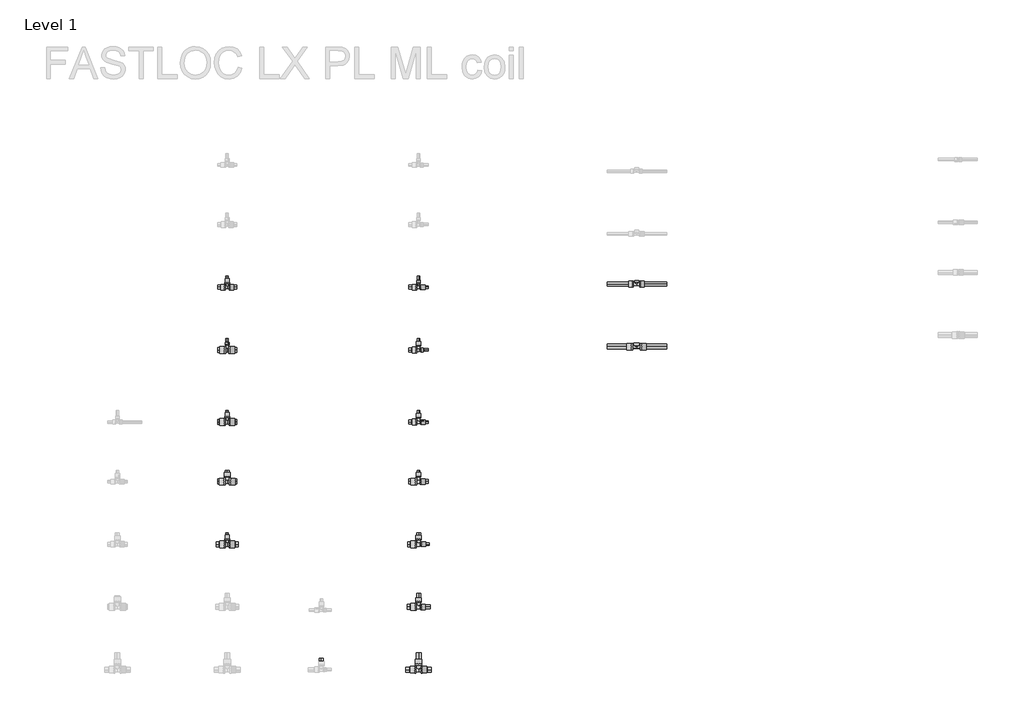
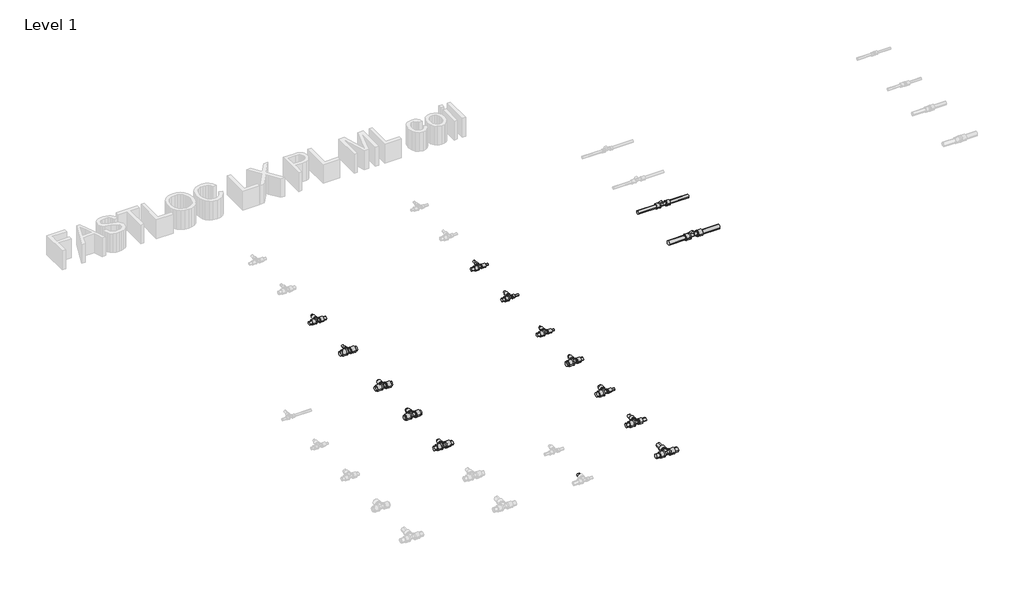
# One storey, part 7 of 78: 41 pipe segments, 14 pipe fittings.
"""IFC4 building model written with IfcOpenShell, lengths in millimetres."""

from ifc_helpers import new_model, si_unit, point, frame, frame_2d, origin, place, context, project, spatial, circle_curve, trimmed, segment, composite_curve, outline, extrude, transform, mapped, element, save
from components import pipe_fitting_91740978, pipe_fitting_29102c59, pipe_fitting_7435f538, pipe_fitting_b40a3e3c, pipe_fitting_d9a56b63, pipe_fitting_a094db19, pipe_fitting_5d5decb5, pipe_fitting_f2600fd0, pipe_fitting_8d489ee2, pipe_fitting_c4e8b4db, pipe_fitting_3bea6388, pipe_fitting_e638986c, pipe_fitting_29c4d4eb

model = new_model("IFC4")

# Units and contexts
model_context = context("Model", 3, world=origin())
ifc_project = project(units=[si_unit("LENGTHUNIT", "METRE", prefix="MILLI")], contexts=[model_context])

# Site, building, storey
site = spatial("IfcSite", under=ifc_project)
building = spatial("IfcBuilding", under=site)
storey = spatial("IfcBuildingStorey", under=building, Name="Level 1", Elevation=0.0)

# Pipe fittings
placement = place(None, origin())
pipe_fitting_shape = pipe_fitting_91740978(model_context)
element("IfcPipeFitting", 1, ObjectType="FASTLOC_T-piece internal thread LX : FSL T thread LX PL", at=placement, inside=storey, context=model_context, shape_type="MappedRepresentation", body=[
    mapped(pipe_fitting_shape, transform((59036.609585, -36699.8272875, 0.0), x_axis=(1.0, 0.0, 0.0), y_axis=(0.0, 1.0, 0.0), z_axis=(0.0, 0.0, 1.0))),
])
pipe_fitting_2_shape = pipe_fitting_29102c59(model_context)
element("IfcPipeFitting", 2, ObjectType="FASTLOC_T-piece_LX : FSL T-Piece LX PL", at=placement, inside=storey, context=model_context, shape_type="MappedRepresentation", body=[
    mapped(pipe_fitting_2_shape, transform((57646.7498072, -38760.2405791, 0.0), x_axis=(1.0, 0.0, 0.0), y_axis=(0.0, 1.0, 0.0), z_axis=(0.0, 0.0, 1.0))),
])
pipe_fitting_3_shape = pipe_fitting_7435f538(model_context)
element("IfcPipeFitting", 3, ObjectType="FASTLOC_T-piece_LX : FSL T-Piece LX PL", at=placement, inside=storey, context=model_context, shape_type="MappedRepresentation", body=[
    mapped(pipe_fitting_3_shape, transform((56426.7498072, -37180.2405791, 0.0), x_axis=(1.0, 0.0, 0.0), y_axis=(0.0, 1.0, 0.0), z_axis=(0.0, 0.0, 1.0))),
])
element("IfcPipeFitting", 4, ObjectType="FASTLOC_T-piece_LX : FSL T-Piece LX PL", at=placement, inside=storey, context=model_context, shape_type="MappedRepresentation", body=[
    mapped(pipe_fitting_3_shape, transform((56426.7498072, -37960.2405791, 0.0), x_axis=(1.0, 0.0, 0.0), y_axis=(0.0, 1.0, 0.0), z_axis=(0.0, 0.0, 1.0))),
])
pipe_fitting_4_shape = pipe_fitting_b40a3e3c(model_context)
element("IfcPipeFitting", 5, ObjectType="FASTLOC_T-piece_LX : FSL T-Piece LX PL", at=placement, inside=storey, context=model_context, shape_type="MappedRepresentation", body=[
    mapped(pipe_fitting_4_shape, transform((56426.7498072, -37560.2405791, 0.0), x_axis=(1.0, 0.0, 0.0), y_axis=(0.0, 1.0, 0.0), z_axis=(0.0, 0.0, 1.0))),
])
pipe_fitting_5_shape = pipe_fitting_d9a56b63(model_context)
element("IfcPipeFitting", 6, ObjectType="FASTLOC_T-piece_LX : FSL T-Piece LX PL", at=placement, inside=storey, context=model_context, shape_type="MappedRepresentation", body=[
    mapped(pipe_fitting_5_shape, transform((56426.7498072, -36320.2405791, 0.0), x_axis=(1.0, 0.0, 0.0), y_axis=(0.0, 1.0, 0.0), z_axis=(0.0, 0.0, 1.0))),
])
pipe_fitting_6_shape = pipe_fitting_a094db19(model_context)
element("IfcPipeFitting", 7, ObjectType="FASTLOC_T-piece_LX : FSL T-Piece LX PL", at=placement, inside=storey, context=model_context, shape_type="MappedRepresentation", body=[
    mapped(pipe_fitting_6_shape, transform((56426.7498072, -36720.2405791, 0.0), x_axis=(1.0, 0.0, 0.0), y_axis=(0.0, 1.0, 0.0), z_axis=(0.0, 0.0, 1.0))),
])
pipe_fitting_7_shape = pipe_fitting_5d5decb5(model_context)
element("IfcPipeFitting", 8, ObjectType="FASTLOC_T-piece_LX : FSL T-Piece LX PL", at=placement, inside=storey, context=model_context, shape_type="MappedRepresentation", body=[
    mapped(pipe_fitting_7_shape, transform((57646.7498072, -37180.2405791, 0.0), x_axis=(1.0, 0.0, 0.0), y_axis=(0.0, 1.0, 0.0), z_axis=(0.0, 0.0, 1.0))),
])
pipe_fitting_8_shape = pipe_fitting_f2600fd0(model_context)
element("IfcPipeFitting", 9, ObjectType="FASTLOC_T-piece_LX : FSL T-Piece LX PL", at=placement, inside=storey, context=model_context, shape_type="MappedRepresentation", body=[
    mapped(pipe_fitting_8_shape, transform((57646.7498072, -37560.2405791, 0.0), x_axis=(1.0, 0.0, 0.0), y_axis=(0.0, 1.0, 0.0), z_axis=(0.0, 0.0, 1.0))),
])
pipe_fitting_9_shape = pipe_fitting_8d489ee2(model_context)
element("IfcPipeFitting", 10, ObjectType="FASTLOC_T-piece_LX : FSL T-Piece LX PL", at=placement, inside=storey, context=model_context, shape_type="MappedRepresentation", body=[
    mapped(pipe_fitting_9_shape, transform((57646.7498072, -37960.2405791, 0.0), x_axis=(1.0, 0.0, 0.0), y_axis=(0.0, 1.0, 0.0), z_axis=(0.0, 0.0, 1.0))),
])
pipe_fitting_10_shape = pipe_fitting_c4e8b4db(model_context)
element("IfcPipeFitting", 11, ObjectType="FASTLOC_T-piece_LX : FSL T-Piece LX PL", at=placement, inside=storey, context=model_context, shape_type="MappedRepresentation", body=[
    mapped(pipe_fitting_10_shape, transform((57646.7498072, -38360.2405791, 0.0), x_axis=(1.0, 0.0, 0.0), y_axis=(0.0, 1.0, 0.0), z_axis=(0.0, 0.0, 1.0))),
])
pipe_fitting_11_shape = pipe_fitting_3bea6388(model_context)
element("IfcPipeFitting", 12, ObjectType="FASTLOC_T-piece_LX : FSL T-Piece LX PL", at=placement, inside=storey, context=model_context, shape_type="MappedRepresentation", body=[
    mapped(pipe_fitting_11_shape, transform((57646.7498072, -36320.2405791, 0.0), x_axis=(1.0, 0.0, 0.0), y_axis=(0.0, 1.0, 0.0), z_axis=(0.0, 0.0, 1.0))),
])
pipe_fitting_12_shape = pipe_fitting_e638986c(model_context)
element("IfcPipeFitting", 13, ObjectType="FASTLOC_T-piece_LX : FSL T-Piece LX PL", at=placement, inside=storey, context=model_context, shape_type="MappedRepresentation", body=[
    mapped(pipe_fitting_12_shape, transform((57646.7498072, -36720.2405791, 0.0), x_axis=(1.0, 0.0, 0.0), y_axis=(0.0, 1.0, 0.0), z_axis=(0.0, 0.0, 1.0))),
])
pipe_fitting_13_shape = pipe_fitting_29c4d4eb(model_context)
element("IfcPipeFitting", 14, ObjectType="FASTLOC_T-piece internal thread LX : FSL T thread LX PL", at=placement, inside=storey, context=model_context, shape_type="MappedRepresentation", body=[
    mapped(pipe_fitting_13_shape, transform((59036.609585, -36299.8272875, 0.0), x_axis=(1.0, 0.0, 0.0), y_axis=(0.0, 1.0, 0.0), z_axis=(0.0, 0.0, 1.0))),
])

# Pipe segments
element("IfcPipeSegment", 15, ObjectType="FASTLOC LX ML PL coil", at=placement, inside=storey, context=model_context, shape_type="SweptSolid", body=[
    extrude(outline(composite_curve([segment(trimmed(circle_curve(frame_2d((-37180.2405791, 0.0)), 16.0), [point((-37196.2405791, 0.0))], [point((-37180.2405791, 16.0))], False, "CARTESIAN"), True, "CONTINUOUS"), segment(trimmed(circle_curve(frame_2d((-37180.2405791, 0.0)), 16.0), [point((-37180.2405791, 16.0))], [point((-37164.2405791, 0.0))], False, "CARTESIAN"), True, "CONTINUOUS"), segment(trimmed(circle_curve(frame_2d((-37180.2405791, 0.0)), 16.0), [point((-37164.2405791, 0.0))], [point((-37180.2405791, -16.0))], False, "CARTESIAN"), True, "CONTINUOUS"), segment(trimmed(circle_curve(frame_2d((-37180.2405791, 0.0)), 16.0), [point((-37180.2405791, -16.0))], [point((-37196.2405791, 0.0))], False, "CARTESIAN"), True, "CONTINUOUS")], self_intersect=False)), frame((56446.9498072, 0.0, 0.0), z_axis=(1.0, 0.0, 0.0), x_axis=(0.0, 1.0, 0.0)), (0.0, 0.0, 1.0), 41.8),
])
element("IfcPipeSegment", 16, ObjectType="FASTLOC LX ML PL coil", at=placement, inside=storey, context=model_context, shape_type="SweptSolid", body=[
    extrude(outline(composite_curve([segment(trimmed(circle_curve(frame_2d((-37180.2405791, 0.0)), 16.0), [point((-37164.2405791, 0.0))], [point((-37180.2405791, -16.0))], False, "CARTESIAN"), True, "CONTINUOUS"), segment(trimmed(circle_curve(frame_2d((-37180.2405791, 0.0)), 16.0), [point((-37180.2405791, -16.0))], [point((-37196.2405791, 0.0))], False, "CARTESIAN"), True, "CONTINUOUS"), segment(trimmed(circle_curve(frame_2d((-37180.2405791, 0.0)), 16.0), [point((-37196.2405791, 0.0))], [point((-37180.2405791, 16.0))], False, "CARTESIAN"), True, "CONTINUOUS"), segment(trimmed(circle_curve(frame_2d((-37180.2405791, 0.0)), 16.0), [point((-37180.2405791, 16.0))], [point((-37164.2405791, 0.0))], False, "CARTESIAN"), True, "CONTINUOUS")], self_intersect=False)), frame((56364.7498072, 0.0, 0.0), z_axis=(1.0, 0.0, 0.0), x_axis=(0.0, 1.0, 0.0)), (0.0, 0.0, 1.0), 41.8),
])
element("IfcPipeSegment", 17, ObjectType="FASTLOC LX ML PL coil", at=placement, inside=storey, context=model_context, shape_type="SweptSolid", body=[
    extrude(outline(composite_curve([segment(trimmed(circle_curve(frame_2d((0.0, 56426.7498072)), 8.0), [point((0.0, 56434.7498072))], [point((8.0, 56426.7498072))], False, "CARTESIAN"), True, "CONTINUOUS"), segment(trimmed(circle_curve(frame_2d((0.0, 56426.7498072)), 8.0), [point((8.0, 56426.7498072))], [point((0.0, 56418.7498072))], False, "CARTESIAN"), True, "CONTINUOUS"), segment(trimmed(circle_curve(frame_2d((0.0, 56426.7498072)), 8.0), [point((0.0, 56418.7498072))], [point((-8.0, 56426.7498072))], False, "CARTESIAN"), True, "CONTINUOUS"), segment(trimmed(circle_curve(frame_2d((0.0, 56426.7498072)), 8.0), [point((-8.0, 56426.7498072))], [point((0.0, 56434.7498072))], False, "CARTESIAN"), True, "CONTINUOUS")], self_intersect=False)), frame((0.0, -37146.2405791, 0.0), z_axis=(0.0, 1.0, 0.0), x_axis=(0.0, 0.0, 1.0)), (0.0, 0.0, 1.0), 38.3),
])
element("IfcPipeSegment", 18, ObjectType="FASTLOC LX ML PL coil", at=placement, inside=storey, context=model_context, shape_type="SweptSolid", body=[
    extrude(outline(composite_curve([segment(trimmed(circle_curve(frame_2d((-37560.2405791, 0.0)), 16.0), [point((-37576.2405791, 0.0))], [point((-37560.2405791, 16.0))], False, "CARTESIAN"), True, "CONTINUOUS"), segment(trimmed(circle_curve(frame_2d((-37560.2405791, 0.0)), 16.0), [point((-37560.2405791, 16.0))], [point((-37544.2405791, 0.0))], False, "CARTESIAN"), True, "CONTINUOUS"), segment(trimmed(circle_curve(frame_2d((-37560.2405791, 0.0)), 16.0), [point((-37544.2405791, 0.0))], [point((-37560.2405791, -16.0))], False, "CARTESIAN"), True, "CONTINUOUS"), segment(trimmed(circle_curve(frame_2d((-37560.2405791, 0.0)), 16.0), [point((-37560.2405791, -16.0))], [point((-37576.2405791, 0.0))], False, "CARTESIAN"), True, "CONTINUOUS")], self_intersect=False)), frame((56448.7498072, 0.0, 0.0), z_axis=(1.0, 0.0, 0.0), x_axis=(0.0, 1.0, 0.0)), (0.0, 0.0, 1.0), 40.0),
])
element("IfcPipeSegment", 19, ObjectType="FASTLOC LX ML PL coil", at=placement, inside=storey, context=model_context, shape_type="SweptSolid", body=[
    extrude(outline(composite_curve([segment(trimmed(circle_curve(frame_2d((-37560.2405791, 0.0)), 16.0), [point((-37544.2405791, 0.0))], [point((-37560.2405791, -16.0))], False, "CARTESIAN"), True, "CONTINUOUS"), segment(trimmed(circle_curve(frame_2d((-37560.2405791, 0.0)), 16.0), [point((-37560.2405791, -16.0))], [point((-37576.2405791, 0.0))], False, "CARTESIAN"), True, "CONTINUOUS"), segment(trimmed(circle_curve(frame_2d((-37560.2405791, 0.0)), 16.0), [point((-37576.2405791, 0.0))], [point((-37560.2405791, 16.0))], False, "CARTESIAN"), True, "CONTINUOUS"), segment(trimmed(circle_curve(frame_2d((-37560.2405791, 0.0)), 16.0), [point((-37560.2405791, 16.0))], [point((-37544.2405791, 0.0))], False, "CARTESIAN"), True, "CONTINUOUS")], self_intersect=False)), frame((56364.7498072, 0.0, 0.0), z_axis=(1.0, 0.0, 0.0), x_axis=(0.0, 1.0, 0.0)), (0.0, 0.0, 1.0), 40.0),
])
element("IfcPipeSegment", 20, ObjectType="FASTLOC LX ML PL coil", at=placement, inside=storey, context=model_context, shape_type="SweptSolid", body=[
    extrude(outline(composite_curve([segment(trimmed(circle_curve(frame_2d((0.0, 56426.7498072)), 12.5), [point((0.0, 56439.2498072))], [point((12.5, 56426.7498072))], False, "CARTESIAN"), True, "CONTINUOUS"), segment(trimmed(circle_curve(frame_2d((0.0, 56426.7498072)), 12.5), [point((12.5, 56426.7498072))], [point((0.0, 56414.2498072))], False, "CARTESIAN"), True, "CONTINUOUS"), segment(trimmed(circle_curve(frame_2d((0.0, 56426.7498072)), 12.5), [point((0.0, 56414.2498072))], [point((-12.5, 56426.7498072))], False, "CARTESIAN"), True, "CONTINUOUS"), segment(trimmed(circle_curve(frame_2d((0.0, 56426.7498072)), 12.5), [point((-12.5, 56426.7498072))], [point((0.0, 56439.2498072))], False, "CARTESIAN"), True, "CONTINUOUS")], self_intersect=False)), frame((0.0, -37525.8405791, 0.0), z_axis=(0.0, 1.0, 0.0), x_axis=(0.0, 0.0, 1.0)), (0.0, 0.0, 1.0), 37.9),
])
element("IfcPipeSegment", 21, ObjectType="FASTLOC LX ML PL coil", at=placement, inside=storey, context=model_context, shape_type="SweptSolid", body=[
    extrude(outline(composite_curve([segment(trimmed(circle_curve(frame_2d((-37960.2405791, 0.0)), 16.0), [point((-37976.2405791, 0.0))], [point((-37960.2405791, 16.0))], False, "CARTESIAN"), True, "CONTINUOUS"), segment(trimmed(circle_curve(frame_2d((-37960.2405791, 0.0)), 16.0), [point((-37960.2405791, 16.0))], [point((-37944.2405791, 0.0))], False, "CARTESIAN"), True, "CONTINUOUS"), segment(trimmed(circle_curve(frame_2d((-37960.2405791, 0.0)), 16.0), [point((-37944.2405791, 0.0))], [point((-37960.2405791, -16.0))], False, "CARTESIAN"), True, "CONTINUOUS"), segment(trimmed(circle_curve(frame_2d((-37960.2405791, 0.0)), 16.0), [point((-37960.2405791, -16.0))], [point((-37976.2405791, 0.0))], False, "CARTESIAN"), True, "CONTINUOUS")], self_intersect=False)), frame((56446.9498072, 0.0, 0.0), z_axis=(1.0, 0.0, 0.0), x_axis=(0.0, 1.0, 0.0)), (0.0, 0.0, 1.0), 48.8),
])
element("IfcPipeSegment", 22, ObjectType="FASTLOC LX ML PL coil", at=placement, inside=storey, context=model_context, shape_type="SweptSolid", body=[
    extrude(outline(composite_curve([segment(trimmed(circle_curve(frame_2d((-37960.2405791, 0.0)), 16.0), [point((-37944.2405791, 0.0))], [point((-37960.2405791, -16.0))], False, "CARTESIAN"), True, "CONTINUOUS"), segment(trimmed(circle_curve(frame_2d((-37960.2405791, 0.0)), 16.0), [point((-37960.2405791, -16.0))], [point((-37976.2405791, 0.0))], False, "CARTESIAN"), True, "CONTINUOUS"), segment(trimmed(circle_curve(frame_2d((-37960.2405791, 0.0)), 16.0), [point((-37976.2405791, 0.0))], [point((-37960.2405791, 16.0))], False, "CARTESIAN"), True, "CONTINUOUS"), segment(trimmed(circle_curve(frame_2d((-37960.2405791, 0.0)), 16.0), [point((-37960.2405791, 16.0))], [point((-37944.2405791, 0.0))], False, "CARTESIAN"), True, "CONTINUOUS")], self_intersect=False)), frame((56357.7498072, 0.0, 0.0), z_axis=(1.0, 0.0, 0.0), x_axis=(0.0, 1.0, 0.0)), (0.0, 0.0, 1.0), 48.8),
])
element("IfcPipeSegment", 23, ObjectType="FASTLOC LX ML PL coil", at=placement, inside=storey, context=model_context, shape_type="SweptSolid", body=[
    extrude(outline(composite_curve([segment(trimmed(circle_curve(frame_2d((0.0, 56426.7498072)), 8.0), [point((0.0, 56434.7498072))], [point((8.0, 56426.7498072))], False, "CARTESIAN"), True, "CONTINUOUS"), segment(trimmed(circle_curve(frame_2d((0.0, 56426.7498072)), 8.0), [point((8.0, 56426.7498072))], [point((0.0, 56418.7498072))], False, "CARTESIAN"), True, "CONTINUOUS"), segment(trimmed(circle_curve(frame_2d((0.0, 56426.7498072)), 8.0), [point((0.0, 56418.7498072))], [point((-8.0, 56426.7498072))], False, "CARTESIAN"), True, "CONTINUOUS"), segment(trimmed(circle_curve(frame_2d((0.0, 56426.7498072)), 8.0), [point((-8.0, 56426.7498072))], [point((0.0, 56434.7498072))], False, "CARTESIAN"), True, "CONTINUOUS")], self_intersect=False)), frame((0.0, -37926.2405791, 0.0), z_axis=(0.0, 1.0, 0.0), x_axis=(0.0, 0.0, 1.0)), (0.0, 0.0, 1.0), 38.3),
])
element("IfcPipeSegment", 24, ObjectType="FASTLOC LX ML PL coil", at=placement, inside=storey, context=model_context, shape_type="SweptSolid", body=[
    extrude(outline(composite_curve([segment(trimmed(circle_curve(frame_2d((-36320.2405791, 0.0)), 12.5), [point((-36332.7405791, 0.0))], [point((-36320.2405791, 12.5))], False, "CARTESIAN"), True, "CONTINUOUS"), segment(trimmed(circle_curve(frame_2d((-36320.2405791, 0.0)), 12.5), [point((-36320.2405791, 12.5))], [point((-36307.7405791, 0.0))], False, "CARTESIAN"), True, "CONTINUOUS"), segment(trimmed(circle_curve(frame_2d((-36320.2405791, 0.0)), 12.5), [point((-36307.7405791, 0.0))], [point((-36320.2405791, -12.5))], False, "CARTESIAN"), True, "CONTINUOUS"), segment(trimmed(circle_curve(frame_2d((-36320.2405791, 0.0)), 12.5), [point((-36320.2405791, -12.5))], [point((-36332.7405791, 0.0))], False, "CARTESIAN"), True, "CONTINUOUS")], self_intersect=False)), frame((56444.8498072, 0.0, 0.0), z_axis=(1.0, 0.0, 0.0), x_axis=(0.0, 1.0, 0.0)), (0.0, 0.0, 1.0), 43.9),
])
element("IfcPipeSegment", 25, ObjectType="FASTLOC LX ML PL coil", at=placement, inside=storey, context=model_context, shape_type="SweptSolid", body=[
    extrude(outline(composite_curve([segment(trimmed(circle_curve(frame_2d((-36320.2405791, 0.0)), 12.5), [point((-36307.7405791, 0.0))], [point((-36320.2405791, -12.5))], False, "CARTESIAN"), True, "CONTINUOUS"), segment(trimmed(circle_curve(frame_2d((-36320.2405791, 0.0)), 12.5), [point((-36320.2405791, -12.5))], [point((-36332.7405791, 0.0))], False, "CARTESIAN"), True, "CONTINUOUS"), segment(trimmed(circle_curve(frame_2d((-36320.2405791, 0.0)), 12.5), [point((-36332.7405791, 0.0))], [point((-36320.2405791, 12.5))], False, "CARTESIAN"), True, "CONTINUOUS"), segment(trimmed(circle_curve(frame_2d((-36320.2405791, 0.0)), 12.5), [point((-36320.2405791, 12.5))], [point((-36307.7405791, 0.0))], False, "CARTESIAN"), True, "CONTINUOUS")], self_intersect=False)), frame((56364.7498072, 0.0, 0.0), z_axis=(1.0, 0.0, 0.0), x_axis=(0.0, 1.0, 0.0)), (0.0, 0.0, 1.0), 43.9),
])
element("IfcPipeSegment", 26, ObjectType="FASTLOC LX ML PL coil", at=placement, inside=storey, context=model_context, shape_type="SweptSolid", body=[
    extrude(outline(composite_curve([segment(trimmed(circle_curve(frame_2d((0.0, 56426.7498072)), 8.0), [point((0.0, 56434.7498072))], [point((8.0, 56426.7498072))], False, "CARTESIAN"), True, "CONTINUOUS"), segment(trimmed(circle_curve(frame_2d((0.0, 56426.7498072)), 8.0), [point((8.0, 56426.7498072))], [point((0.0, 56418.7498072))], False, "CARTESIAN"), True, "CONTINUOUS"), segment(trimmed(circle_curve(frame_2d((0.0, 56426.7498072)), 8.0), [point((0.0, 56418.7498072))], [point((-8.0, 56426.7498072))], False, "CARTESIAN"), True, "CONTINUOUS"), segment(trimmed(circle_curve(frame_2d((0.0, 56426.7498072)), 8.0), [point((-8.0, 56426.7498072))], [point((0.0, 56434.7498072))], False, "CARTESIAN"), True, "CONTINUOUS")], self_intersect=False)), frame((0.0, -36291.0405791, 0.0), z_axis=(0.0, 1.0, 0.0), x_axis=(0.0, 0.0, 1.0)), (0.0, 0.0, 1.0), 43.1),
])
element("IfcPipeSegment", 27, ObjectType="FASTLOC LX ML PL coil", at=placement, inside=storey, context=model_context, shape_type="SweptSolid", body=[
    extrude(outline(composite_curve([segment(trimmed(circle_curve(frame_2d((-36720.2405791, 0.0)), 16.0), [point((-36736.2405791, 0.0))], [point((-36720.2405791, 16.0))], False, "CARTESIAN"), True, "CONTINUOUS"), segment(trimmed(circle_curve(frame_2d((-36720.2405791, 0.0)), 16.0), [point((-36720.2405791, 16.0))], [point((-36704.2405791, 0.0))], False, "CARTESIAN"), True, "CONTINUOUS"), segment(trimmed(circle_curve(frame_2d((-36720.2405791, 0.0)), 16.0), [point((-36704.2405791, 0.0))], [point((-36720.2405791, -16.0))], False, "CARTESIAN"), True, "CONTINUOUS"), segment(trimmed(circle_curve(frame_2d((-36720.2405791, 0.0)), 16.0), [point((-36720.2405791, -16.0))], [point((-36736.2405791, 0.0))], False, "CARTESIAN"), True, "CONTINUOUS")], self_intersect=False)), frame((56445.0498072, 0.0, 0.0), z_axis=(1.0, 0.0, 0.0), x_axis=(0.0, 1.0, 0.0)), (0.0, 0.0, 1.0), 43.7),
])
element("IfcPipeSegment", 28, ObjectType="FASTLOC LX ML PL coil", at=placement, inside=storey, context=model_context, shape_type="SweptSolid", body=[
    extrude(outline(composite_curve([segment(trimmed(circle_curve(frame_2d((-36720.2405791, 0.0)), 16.0), [point((-36704.2405791, 0.0))], [point((-36720.2405791, -16.0))], False, "CARTESIAN"), True, "CONTINUOUS"), segment(trimmed(circle_curve(frame_2d((-36720.2405791, 0.0)), 16.0), [point((-36720.2405791, -16.0))], [point((-36736.2405791, 0.0))], False, "CARTESIAN"), True, "CONTINUOUS"), segment(trimmed(circle_curve(frame_2d((-36720.2405791, 0.0)), 16.0), [point((-36736.2405791, 0.0))], [point((-36720.2405791, 16.0))], False, "CARTESIAN"), True, "CONTINUOUS"), segment(trimmed(circle_curve(frame_2d((-36720.2405791, 0.0)), 16.0), [point((-36720.2405791, 16.0))], [point((-36704.2405791, 0.0))], False, "CARTESIAN"), True, "CONTINUOUS")], self_intersect=False)), frame((56364.7498072, 0.0, 0.0), z_axis=(1.0, 0.0, 0.0), x_axis=(0.0, 1.0, 0.0)), (0.0, 0.0, 1.0), 43.7),
])
element("IfcPipeSegment", 29, ObjectType="FASTLOC LX ML PL coil", at=placement, inside=storey, context=model_context, shape_type="SweptSolid", body=[
    extrude(outline(composite_curve([segment(trimmed(circle_curve(frame_2d((0.0, 56426.7498072)), 8.0), [point((0.0, 56434.7498072))], [point((8.0, 56426.7498072))], False, "CARTESIAN"), True, "CONTINUOUS"), segment(trimmed(circle_curve(frame_2d((0.0, 56426.7498072)), 8.0), [point((8.0, 56426.7498072))], [point((0.0, 56418.7498072))], False, "CARTESIAN"), True, "CONTINUOUS"), segment(trimmed(circle_curve(frame_2d((0.0, 56426.7498072)), 8.0), [point((0.0, 56418.7498072))], [point((-8.0, 56426.7498072))], False, "CARTESIAN"), True, "CONTINUOUS"), segment(trimmed(circle_curve(frame_2d((0.0, 56426.7498072)), 8.0), [point((-8.0, 56426.7498072))], [point((0.0, 56434.7498072))], False, "CARTESIAN"), True, "CONTINUOUS")], self_intersect=False)), frame((0.0, -36686.3405791, 0.0), z_axis=(0.0, 1.0, 0.0), x_axis=(0.0, 0.0, 1.0)), (0.0, 0.0, 1.0), 38.4),
])
element("IfcPipeSegment", 30, ObjectType="FASTLOC LX ML PL coil", at=placement, inside=storey, context=model_context, shape_type="SweptSolid", body=[
    extrude(outline(composite_curve([segment(trimmed(circle_curve(frame_2d((0.0, 57026.7498072)), 12.5), [point((0.0, 57039.2498072))], [point((12.5, 57026.7498072))], False, "CARTESIAN"), True, "CONTINUOUS"), segment(trimmed(circle_curve(frame_2d((0.0, 57026.7498072)), 12.5), [point((12.5, 57026.7498072))], [point((0.0, 57014.2498072))], False, "CARTESIAN"), True, "CONTINUOUS"), segment(trimmed(circle_curve(frame_2d((0.0, 57026.7498072)), 12.5), [point((0.0, 57014.2498072))], [point((-12.5, 57026.7498072))], False, "CARTESIAN"), True, "CONTINUOUS"), segment(trimmed(circle_curve(frame_2d((0.0, 57026.7498072)), 12.5), [point((-12.5, 57026.7498072))], [point((0.0, 57039.2498072))], False, "CARTESIAN"), True, "CONTINUOUS")], self_intersect=False)), frame((0.0, -38730.7405791, 0.0), z_axis=(0.0, 1.0, 0.0), x_axis=(0.0, 0.0, 1.0)), (0.0, 0.0, 1.0), 42.8),
])
element("IfcPipeSegment", 31, ObjectType="FASTLOC LX ML PL coil", at=placement, inside=storey, context=model_context, shape_type="SweptSolid", body=[
    extrude(outline(composite_curve([segment(trimmed(circle_curve(frame_2d((-37180.2405791, 0.0)), 8.0), [point((-37188.2405791, 0.0))], [point((-37180.2405791, 8.0))], False, "CARTESIAN"), True, "CONTINUOUS"), segment(trimmed(circle_curve(frame_2d((-37180.2405791, 0.0)), 8.0), [point((-37180.2405791, 8.0))], [point((-37172.2405791, 0.0))], False, "CARTESIAN"), True, "CONTINUOUS"), segment(trimmed(circle_curve(frame_2d((-37180.2405791, 0.0)), 8.0), [point((-37172.2405791, 0.0))], [point((-37180.2405791, -8.0))], False, "CARTESIAN"), True, "CONTINUOUS"), segment(trimmed(circle_curve(frame_2d((-37180.2405791, 0.0)), 8.0), [point((-37180.2405791, -8.0))], [point((-37188.2405791, 0.0))], False, "CARTESIAN"), True, "CONTINUOUS")], self_intersect=False)), frame((57664.1498072, 0.0, 0.0), z_axis=(1.0, 0.0, 0.0), x_axis=(0.0, 1.0, 0.0)), (0.0, 0.0, 1.0), 44.6),
])
element("IfcPipeSegment", 32, ObjectType="FASTLOC LX ML PL coil", at=placement, inside=storey, context=model_context, shape_type="SweptSolid", body=[
    extrude(outline(composite_curve([segment(trimmed(circle_curve(frame_2d((-37180.2405791, 0.0)), 12.5), [point((-37167.7405791, 0.0))], [point((-37180.2405791, -12.5))], False, "CARTESIAN"), True, "CONTINUOUS"), segment(trimmed(circle_curve(frame_2d((-37180.2405791, 0.0)), 12.5), [point((-37180.2405791, -12.5))], [point((-37192.7405791, 0.0))], False, "CARTESIAN"), True, "CONTINUOUS"), segment(trimmed(circle_curve(frame_2d((-37180.2405791, 0.0)), 12.5), [point((-37192.7405791, 0.0))], [point((-37180.2405791, 12.5))], False, "CARTESIAN"), True, "CONTINUOUS"), segment(trimmed(circle_curve(frame_2d((-37180.2405791, 0.0)), 12.5), [point((-37180.2405791, 12.5))], [point((-37167.7405791, 0.0))], False, "CARTESIAN"), True, "CONTINUOUS")], self_intersect=False)), frame((57584.7498072, 0.0, 0.0), z_axis=(1.0, 0.0, 0.0), x_axis=(0.0, 1.0, 0.0)), (0.0, 0.0, 1.0), 43.7),
])
element("IfcPipeSegment", 33, ObjectType="FASTLOC LX ML PL coil", at=placement, inside=storey, context=model_context, shape_type="SweptSolid", body=[
    extrude(outline(composite_curve([segment(trimmed(circle_curve(frame_2d((0.0, 57646.7498072)), 8.0), [point((0.0, 57654.7498072))], [point((8.0, 57646.7498072))], False, "CARTESIAN"), True, "CONTINUOUS"), segment(trimmed(circle_curve(frame_2d((0.0, 57646.7498072)), 8.0), [point((8.0, 57646.7498072))], [point((0.0, 57638.7498072))], False, "CARTESIAN"), True, "CONTINUOUS"), segment(trimmed(circle_curve(frame_2d((0.0, 57646.7498072)), 8.0), [point((0.0, 57638.7498072))], [point((-8.0, 57646.7498072))], False, "CARTESIAN"), True, "CONTINUOUS"), segment(trimmed(circle_curve(frame_2d((0.0, 57646.7498072)), 8.0), [point((-8.0, 57646.7498072))], [point((0.0, 57654.7498072))], False, "CARTESIAN"), True, "CONTINUOUS")], self_intersect=False)), frame((0.0, -37151.0405791, 0.0), z_axis=(0.0, 1.0, 0.0), x_axis=(0.0, 0.0, 1.0)), (0.0, 0.0, 1.0), 43.1),
])
element("IfcPipeSegment", 34, ObjectType="FASTLOC LX ML PL coil", at=placement, inside=storey, context=model_context, shape_type="SweptSolid", body=[
    extrude(outline(composite_curve([segment(trimmed(circle_curve(frame_2d((-37560.2405791, 0.0)), 12.5), [point((-37572.7405791, 0.0))], [point((-37560.2405791, 12.5))], False, "CARTESIAN"), True, "CONTINUOUS"), segment(trimmed(circle_curve(frame_2d((-37560.2405791, 0.0)), 12.5), [point((-37560.2405791, 12.5))], [point((-37547.7405791, 0.0))], False, "CARTESIAN"), True, "CONTINUOUS"), segment(trimmed(circle_curve(frame_2d((-37560.2405791, 0.0)), 12.5), [point((-37547.7405791, 0.0))], [point((-37560.2405791, -12.5))], False, "CARTESIAN"), True, "CONTINUOUS"), segment(trimmed(circle_curve(frame_2d((-37560.2405791, 0.0)), 12.5), [point((-37560.2405791, -12.5))], [point((-37572.7405791, 0.0))], False, "CARTESIAN"), True, "CONTINUOUS")], self_intersect=False)), frame((57665.0498072, 0.0, 0.0), z_axis=(1.0, 0.0, 0.0), x_axis=(0.0, 1.0, 0.0)), (0.0, 0.0, 1.0), 43.7),
])
element("IfcPipeSegment", 35, ObjectType="FASTLOC LX ML PL coil", at=placement, inside=storey, context=model_context, shape_type="SweptSolid", body=[
    extrude(outline(composite_curve([segment(trimmed(circle_curve(frame_2d((-37560.2405791, 0.0)), 16.0), [point((-37544.2405791, 0.0))], [point((-37560.2405791, -16.0))], False, "CARTESIAN"), True, "CONTINUOUS"), segment(trimmed(circle_curve(frame_2d((-37560.2405791, 0.0)), 16.0), [point((-37560.2405791, -16.0))], [point((-37576.2405791, 0.0))], False, "CARTESIAN"), True, "CONTINUOUS"), segment(trimmed(circle_curve(frame_2d((-37560.2405791, 0.0)), 16.0), [point((-37576.2405791, 0.0))], [point((-37560.2405791, 16.0))], False, "CARTESIAN"), True, "CONTINUOUS"), segment(trimmed(circle_curve(frame_2d((-37560.2405791, 0.0)), 16.0), [point((-37560.2405791, 16.0))], [point((-37544.2405791, 0.0))], False, "CARTESIAN"), True, "CONTINUOUS")], self_intersect=False)), frame((57584.7498072, 0.0, 0.0), z_axis=(1.0, 0.0, 0.0), x_axis=(0.0, 1.0, 0.0)), (0.0, 0.0, 1.0), 41.7),
])
element("IfcPipeSegment", 36, ObjectType="FASTLOC LX ML PL coil", at=placement, inside=storey, context=model_context, shape_type="SweptSolid", body=[
    extrude(outline(composite_curve([segment(trimmed(circle_curve(frame_2d((0.0, 57646.7498072)), 8.0), [point((0.0, 57654.7498072))], [point((8.0, 57646.7498072))], False, "CARTESIAN"), True, "CONTINUOUS"), segment(trimmed(circle_curve(frame_2d((0.0, 57646.7498072)), 8.0), [point((8.0, 57646.7498072))], [point((0.0, 57638.7498072))], False, "CARTESIAN"), True, "CONTINUOUS"), segment(trimmed(circle_curve(frame_2d((0.0, 57646.7498072)), 8.0), [point((0.0, 57638.7498072))], [point((-8.0, 57646.7498072))], False, "CARTESIAN"), True, "CONTINUOUS"), segment(trimmed(circle_curve(frame_2d((0.0, 57646.7498072)), 8.0), [point((-8.0, 57646.7498072))], [point((0.0, 57654.7498072))], False, "CARTESIAN"), True, "CONTINUOUS")], self_intersect=False)), frame((0.0, -37526.2405791, 0.0), z_axis=(0.0, 1.0, 0.0), x_axis=(0.0, 0.0, 1.0)), (0.0, 0.0, 1.0), 38.3),
])
element("IfcPipeSegment", 37, ObjectType="FASTLOC LX ML PL coil", at=placement, inside=storey, context=model_context, shape_type="SweptSolid", body=[
    extrude(outline(composite_curve([segment(trimmed(circle_curve(frame_2d((-37960.2405791, 0.0)), 8.0), [point((-37968.2405791, 0.0))], [point((-37960.2405791, 8.0))], False, "CARTESIAN"), True, "CONTINUOUS"), segment(trimmed(circle_curve(frame_2d((-37960.2405791, 0.0)), 8.0), [point((-37960.2405791, 8.0))], [point((-37952.2405791, 0.0))], False, "CARTESIAN"), True, "CONTINUOUS"), segment(trimmed(circle_curve(frame_2d((-37960.2405791, 0.0)), 8.0), [point((-37952.2405791, 0.0))], [point((-37960.2405791, -8.0))], False, "CARTESIAN"), True, "CONTINUOUS"), segment(trimmed(circle_curve(frame_2d((-37960.2405791, 0.0)), 8.0), [point((-37960.2405791, -8.0))], [point((-37968.2405791, 0.0))], False, "CARTESIAN"), True, "CONTINUOUS")], self_intersect=False)), frame((57665.9498072, 0.0, 0.0), z_axis=(1.0, 0.0, 0.0), x_axis=(0.0, 1.0, 0.0)), (0.0, 0.0, 1.0), 49.8),
])
element("IfcPipeSegment", 38, ObjectType="FASTLOC LX ML PL coil", at=placement, inside=storey, context=model_context, shape_type="SweptSolid", body=[
    extrude(outline(composite_curve([segment(trimmed(circle_curve(frame_2d((-37960.2405791, 0.0)), 16.0), [point((-37944.2405791, 0.0))], [point((-37960.2405791, -16.0))], False, "CARTESIAN"), True, "CONTINUOUS"), segment(trimmed(circle_curve(frame_2d((-37960.2405791, 0.0)), 16.0), [point((-37960.2405791, -16.0))], [point((-37976.2405791, 0.0))], False, "CARTESIAN"), True, "CONTINUOUS"), segment(trimmed(circle_curve(frame_2d((-37960.2405791, 0.0)), 16.0), [point((-37976.2405791, 0.0))], [point((-37960.2405791, 16.0))], False, "CARTESIAN"), True, "CONTINUOUS"), segment(trimmed(circle_curve(frame_2d((-37960.2405791, 0.0)), 16.0), [point((-37960.2405791, 16.0))], [point((-37944.2405791, 0.0))], False, "CARTESIAN"), True, "CONTINUOUS")], self_intersect=False)), frame((57577.7498072, 0.0, 0.0), z_axis=(1.0, 0.0, 0.0), x_axis=(0.0, 1.0, 0.0)), (0.0, 0.0, 1.0), 46.9),
])
element("IfcPipeSegment", 39, ObjectType="FASTLOC LX ML PL coil", at=placement, inside=storey, context=model_context, shape_type="SweptSolid", body=[
    extrude(outline(composite_curve([segment(trimmed(circle_curve(frame_2d((0.0, 57646.7498072)), 12.5), [point((0.0, 57659.2498072))], [point((12.5, 57646.7498072))], False, "CARTESIAN"), True, "CONTINUOUS"), segment(trimmed(circle_curve(frame_2d((0.0, 57646.7498072)), 12.5), [point((12.5, 57646.7498072))], [point((0.0, 57634.2498072))], False, "CARTESIAN"), True, "CONTINUOUS"), segment(trimmed(circle_curve(frame_2d((0.0, 57646.7498072)), 12.5), [point((0.0, 57634.2498072))], [point((-12.5, 57646.7498072))], False, "CARTESIAN"), True, "CONTINUOUS"), segment(trimmed(circle_curve(frame_2d((0.0, 57646.7498072)), 12.5), [point((-12.5, 57646.7498072))], [point((0.0, 57659.2498072))], False, "CARTESIAN"), True, "CONTINUOUS")], self_intersect=False)), frame((0.0, -37925.8405791, 0.0), z_axis=(0.0, 1.0, 0.0), x_axis=(0.0, 0.0, 1.0)), (0.0, 0.0, 1.0), 37.9),
])
element("IfcPipeSegment", 40, ObjectType="FASTLOC LX ML PL coil", at=placement, inside=storey, context=model_context, shape_type="SweptSolid", body=[
    extrude(outline(composite_curve([segment(trimmed(circle_curve(frame_2d((-38360.2405791, 0.0)), 12.5), [point((-38372.7405791, 0.0))], [point((-38360.2405791, 12.5))], False, "CARTESIAN"), True, "CONTINUOUS"), segment(trimmed(circle_curve(frame_2d((-38360.2405791, 0.0)), 12.5), [point((-38360.2405791, 12.5))], [point((-38347.7405791, 0.0))], False, "CARTESIAN"), True, "CONTINUOUS"), segment(trimmed(circle_curve(frame_2d((-38360.2405791, 0.0)), 12.5), [point((-38347.7405791, 0.0))], [point((-38360.2405791, -12.5))], False, "CARTESIAN"), True, "CONTINUOUS"), segment(trimmed(circle_curve(frame_2d((-38360.2405791, 0.0)), 12.5), [point((-38360.2405791, -12.5))], [point((-38372.7405791, 0.0))], False, "CARTESIAN"), True, "CONTINUOUS")], self_intersect=False)), frame((57666.8498072, 0.0, 0.0), z_axis=(1.0, 0.0, 0.0), x_axis=(0.0, 1.0, 0.0)), (0.0, 0.0, 1.0), 53.5),
])
element("IfcPipeSegment", 41, ObjectType="FASTLOC LX ML PL coil", at=placement, inside=storey, context=model_context, shape_type="SweptSolid", body=[
    extrude(outline(composite_curve([segment(trimmed(circle_curve(frame_2d((-38360.2405791, 0.0)), 16.0), [point((-38344.2405791, 0.0))], [point((-38360.2405791, -16.0))], False, "CARTESIAN"), True, "CONTINUOUS"), segment(trimmed(circle_curve(frame_2d((-38360.2405791, 0.0)), 16.0), [point((-38360.2405791, -16.0))], [point((-38376.2405791, 0.0))], False, "CARTESIAN"), True, "CONTINUOUS"), segment(trimmed(circle_curve(frame_2d((-38360.2405791, 0.0)), 16.0), [point((-38376.2405791, 0.0))], [point((-38360.2405791, 16.0))], False, "CARTESIAN"), True, "CONTINUOUS"), segment(trimmed(circle_curve(frame_2d((-38360.2405791, 0.0)), 16.0), [point((-38360.2405791, 16.0))], [point((-38344.2405791, 0.0))], False, "CARTESIAN"), True, "CONTINUOUS")], self_intersect=False)), frame((57573.1498072, 0.0, 0.0), z_axis=(1.0, 0.0, 0.0), x_axis=(0.0, 1.0, 0.0)), (0.0, 0.0, 1.0), 51.5),
])
element("IfcPipeSegment", 42, ObjectType="FASTLOC LX ML PL coil", at=placement, inside=storey, context=model_context, shape_type="SweptSolid", body=[
    extrude(outline(composite_curve([segment(trimmed(circle_curve(frame_2d((0.0, 57646.7498072)), 12.5), [point((0.0, 57659.2498072))], [point((12.5, 57646.7498072))], False, "CARTESIAN"), True, "CONTINUOUS"), segment(trimmed(circle_curve(frame_2d((0.0, 57646.7498072)), 12.5), [point((12.5, 57646.7498072))], [point((0.0, 57634.2498072))], False, "CARTESIAN"), True, "CONTINUOUS"), segment(trimmed(circle_curve(frame_2d((0.0, 57646.7498072)), 12.5), [point((0.0, 57634.2498072))], [point((-12.5, 57646.7498072))], False, "CARTESIAN"), True, "CONTINUOUS"), segment(trimmed(circle_curve(frame_2d((0.0, 57646.7498072)), 12.5), [point((-12.5, 57646.7498072))], [point((0.0, 57659.2498072))], False, "CARTESIAN"), True, "CONTINUOUS")], self_intersect=False)), frame((0.0, -38325.8405791, 0.0), z_axis=(0.0, 1.0, 0.0), x_axis=(0.0, 0.0, 1.0)), (0.0, 0.0, 1.0), 53.4),
])
element("IfcPipeSegment", 43, ObjectType="FASTLOC LX ML PL coil", at=placement, inside=storey, context=model_context, shape_type="SweptSolid", body=[
    extrude(outline(composite_curve([segment(trimmed(circle_curve(frame_2d((-38760.2405791, 0.0)), 16.0), [point((-38776.2405791, 0.0))], [point((-38760.2405791, 16.0))], False, "CARTESIAN"), True, "CONTINUOUS"), segment(trimmed(circle_curve(frame_2d((-38760.2405791, 0.0)), 16.0), [point((-38760.2405791, 16.0))], [point((-38744.2405791, 0.0))], False, "CARTESIAN"), True, "CONTINUOUS"), segment(trimmed(circle_curve(frame_2d((-38760.2405791, 0.0)), 16.0), [point((-38744.2405791, 0.0))], [point((-38760.2405791, -16.0))], False, "CARTESIAN"), True, "CONTINUOUS"), segment(trimmed(circle_curve(frame_2d((-38760.2405791, 0.0)), 16.0), [point((-38760.2405791, -16.0))], [point((-38776.2405791, 0.0))], False, "CARTESIAN"), True, "CONTINUOUS")], self_intersect=False)), frame((57671.5498072, 0.0, 0.0), z_axis=(1.0, 0.0, 0.0), x_axis=(0.0, 1.0, 0.0)), (0.0, 0.0, 1.0), 56.6),
])
element("IfcPipeSegment", 44, ObjectType="FASTLOC LX ML PL coil", at=placement, inside=storey, context=model_context, shape_type="SweptSolid", body=[
    extrude(outline(composite_curve([segment(trimmed(circle_curve(frame_2d((-38760.2405791, 0.0)), 16.0), [point((-38744.2405791, 0.0))], [point((-38760.2405791, -16.0))], False, "CARTESIAN"), True, "CONTINUOUS"), segment(trimmed(circle_curve(frame_2d((-38760.2405791, 0.0)), 16.0), [point((-38760.2405791, -16.0))], [point((-38776.2405791, 0.0))], False, "CARTESIAN"), True, "CONTINUOUS"), segment(trimmed(circle_curve(frame_2d((-38760.2405791, 0.0)), 16.0), [point((-38776.2405791, 0.0))], [point((-38760.2405791, 16.0))], False, "CARTESIAN"), True, "CONTINUOUS"), segment(trimmed(circle_curve(frame_2d((-38760.2405791, 0.0)), 16.0), [point((-38760.2405791, 16.0))], [point((-38744.2405791, 0.0))], False, "CARTESIAN"), True, "CONTINUOUS")], self_intersect=False)), frame((57565.3498072, 0.0, 0.0), z_axis=(1.0, 0.0, 0.0), x_axis=(0.0, 1.0, 0.0)), (0.0, 0.0, 1.0), 56.6),
])
element("IfcPipeSegment", 45, ObjectType="FASTLOC LX ML PL coil", at=placement, inside=storey, context=model_context, shape_type="SweptSolid", body=[
    extrude(outline(composite_curve([segment(trimmed(circle_curve(frame_2d((0.0, 57646.7498072)), 16.0), [point((0.0, 57662.7498072))], [point((16.0, 57646.7498072))], False, "CARTESIAN"), True, "CONTINUOUS"), segment(trimmed(circle_curve(frame_2d((0.0, 57646.7498072)), 16.0), [point((16.0, 57646.7498072))], [point((0.0, 57630.7498072))], False, "CARTESIAN"), True, "CONTINUOUS"), segment(trimmed(circle_curve(frame_2d((0.0, 57646.7498072)), 16.0), [point((0.0, 57630.7498072))], [point((-16.0, 57646.7498072))], False, "CARTESIAN"), True, "CONTINUOUS"), segment(trimmed(circle_curve(frame_2d((0.0, 57646.7498072)), 16.0), [point((-16.0, 57646.7498072))], [point((0.0, 57662.7498072))], False, "CARTESIAN"), True, "CONTINUOUS")], self_intersect=False)), frame((0.0, -38724.1405791, 0.0), z_axis=(0.0, 1.0, 0.0), x_axis=(0.0, 0.0, 1.0)), (0.0, 0.0, 1.0), 71.5),
])
element("IfcPipeSegment", 46, ObjectType="FASTLOC LX ML PL coil", at=placement, inside=storey, context=model_context, shape_type="SweptSolid", body=[
    extrude(outline(composite_curve([segment(trimmed(circle_curve(frame_2d((-36320.2405791, 0.0)), 8.0), [point((-36328.2405791, 0.0))], [point((-36320.2405791, 8.0))], False, "CARTESIAN"), True, "CONTINUOUS"), segment(trimmed(circle_curve(frame_2d((-36320.2405791, 0.0)), 8.0), [point((-36320.2405791, 8.0))], [point((-36312.2405791, 0.0))], False, "CARTESIAN"), True, "CONTINUOUS"), segment(trimmed(circle_curve(frame_2d((-36320.2405791, 0.0)), 8.0), [point((-36312.2405791, 0.0))], [point((-36320.2405791, -8.0))], False, "CARTESIAN"), True, "CONTINUOUS"), segment(trimmed(circle_curve(frame_2d((-36320.2405791, 0.0)), 8.0), [point((-36320.2405791, -8.0))], [point((-36328.2405791, 0.0))], False, "CARTESIAN"), True, "CONTINUOUS")], self_intersect=False)), frame((57662.2498072, 0.0, 0.0), z_axis=(1.0, 0.0, 0.0), x_axis=(0.0, 1.0, 0.0)), (0.0, 0.0, 1.0), 46.5),
])
element("IfcPipeSegment", 47, ObjectType="FASTLOC LX ML PL coil", at=placement, inside=storey, context=model_context, shape_type="SweptSolid", body=[
    extrude(outline(composite_curve([segment(trimmed(circle_curve(frame_2d((-36320.2405791, 0.0)), 12.5), [point((-36307.7405791, 0.0))], [point((-36320.2405791, -12.5))], False, "CARTESIAN"), True, "CONTINUOUS"), segment(trimmed(circle_curve(frame_2d((-36320.2405791, 0.0)), 12.5), [point((-36320.2405791, -12.5))], [point((-36332.7405791, 0.0))], False, "CARTESIAN"), True, "CONTINUOUS"), segment(trimmed(circle_curve(frame_2d((-36320.2405791, 0.0)), 12.5), [point((-36332.7405791, 0.0))], [point((-36320.2405791, 12.5))], False, "CARTESIAN"), True, "CONTINUOUS"), segment(trimmed(circle_curve(frame_2d((-36320.2405791, 0.0)), 12.5), [point((-36320.2405791, 12.5))], [point((-36307.7405791, 0.0))], False, "CARTESIAN"), True, "CONTINUOUS")], self_intersect=False)), frame((57584.7498072, 0.0, 0.0), z_axis=(1.0, 0.0, 0.0), x_axis=(0.0, 1.0, 0.0)), (0.0, 0.0, 1.0), 45.6),
])
element("IfcPipeSegment", 48, ObjectType="FASTLOC LX ML PL coil", at=placement, inside=storey, context=model_context, shape_type="SweptSolid", body=[
    extrude(outline(composite_curve([segment(trimmed(circle_curve(frame_2d((0.0, 57646.7498072)), 8.0), [point((0.0, 57654.7498072))], [point((8.0, 57646.7498072))], False, "CARTESIAN"), True, "CONTINUOUS"), segment(trimmed(circle_curve(frame_2d((0.0, 57646.7498072)), 8.0), [point((8.0, 57646.7498072))], [point((0.0, 57638.7498072))], False, "CARTESIAN"), True, "CONTINUOUS"), segment(trimmed(circle_curve(frame_2d((0.0, 57646.7498072)), 8.0), [point((0.0, 57638.7498072))], [point((-8.0, 57646.7498072))], False, "CARTESIAN"), True, "CONTINUOUS"), segment(trimmed(circle_curve(frame_2d((0.0, 57646.7498072)), 8.0), [point((-8.0, 57646.7498072))], [point((0.0, 57654.7498072))], False, "CARTESIAN"), True, "CONTINUOUS")], self_intersect=False)), frame((0.0, -36291.1405791, 0.0), z_axis=(0.0, 1.0, 0.0), x_axis=(0.0, 0.0, 1.0)), (0.0, 0.0, 1.0), 43.2),
])
element("IfcPipeSegment", 49, ObjectType="FASTLOC LX ML PL coil", at=placement, inside=storey, context=model_context, shape_type="SweptSolid", body=[
    extrude(outline(composite_curve([segment(trimmed(circle_curve(frame_2d((-36720.2405791, 0.0)), 8.0), [point((-36728.2405791, 0.0))], [point((-36720.2405791, 8.0))], False, "CARTESIAN"), True, "CONTINUOUS"), segment(trimmed(circle_curve(frame_2d((-36720.2405791, 0.0)), 8.0), [point((-36720.2405791, 8.0))], [point((-36712.2405791, 0.0))], False, "CARTESIAN"), True, "CONTINUOUS"), segment(trimmed(circle_curve(frame_2d((-36720.2405791, 0.0)), 8.0), [point((-36712.2405791, 0.0))], [point((-36720.2405791, -8.0))], False, "CARTESIAN"), True, "CONTINUOUS"), segment(trimmed(circle_curve(frame_2d((-36720.2405791, 0.0)), 8.0), [point((-36720.2405791, -8.0))], [point((-36728.2405791, 0.0))], False, "CARTESIAN"), True, "CONTINUOUS")], self_intersect=False)), frame((57663.7498072, 0.0, 0.0), z_axis=(1.0, 0.0, 0.0), x_axis=(0.0, 1.0, 0.0)), (0.0, 0.0, 1.0), 45.0),
])
element("IfcPipeSegment", 50, ObjectType="FASTLOC LX ML PL coil", at=placement, inside=storey, context=model_context, shape_type="SweptSolid", body=[
    extrude(outline(composite_curve([segment(trimmed(circle_curve(frame_2d((-36720.2405791, 0.0)), 12.5), [point((-36707.7405791, 0.0))], [point((-36720.2405791, -12.5))], False, "CARTESIAN"), True, "CONTINUOUS"), segment(trimmed(circle_curve(frame_2d((-36720.2405791, 0.0)), 12.5), [point((-36720.2405791, -12.5))], [point((-36732.7405791, 0.0))], False, "CARTESIAN"), True, "CONTINUOUS"), segment(trimmed(circle_curve(frame_2d((-36720.2405791, 0.0)), 12.5), [point((-36732.7405791, 0.0))], [point((-36720.2405791, 12.5))], False, "CARTESIAN"), True, "CONTINUOUS"), segment(trimmed(circle_curve(frame_2d((-36720.2405791, 0.0)), 12.5), [point((-36720.2405791, 12.5))], [point((-36707.7405791, 0.0))], False, "CARTESIAN"), True, "CONTINUOUS")], self_intersect=False)), frame((57584.7498072, 0.0, 0.0), z_axis=(1.0, 0.0, 0.0), x_axis=(0.0, 1.0, 0.0)), (0.0, 0.0, 1.0), 43.7),
])
element("IfcPipeSegment", 51, ObjectType="FASTLOC LX ML PL coil", at=placement, inside=storey, context=model_context, shape_type="SweptSolid", body=[
    extrude(outline(composite_curve([segment(trimmed(circle_curve(frame_2d((0.0, 57646.7498072)), 8.0), [point((0.0, 57654.7498072))], [point((8.0, 57646.7498072))], False, "CARTESIAN"), True, "CONTINUOUS"), segment(trimmed(circle_curve(frame_2d((0.0, 57646.7498072)), 8.0), [point((8.0, 57646.7498072))], [point((0.0, 57638.7498072))], False, "CARTESIAN"), True, "CONTINUOUS"), segment(trimmed(circle_curve(frame_2d((0.0, 57646.7498072)), 8.0), [point((0.0, 57638.7498072))], [point((-8.0, 57646.7498072))], False, "CARTESIAN"), True, "CONTINUOUS"), segment(trimmed(circle_curve(frame_2d((0.0, 57646.7498072)), 8.0), [point((-8.0, 57646.7498072))], [point((0.0, 57654.7498072))], False, "CARTESIAN"), True, "CONTINUOUS")], self_intersect=False)), frame((0.0, -36691.0405791, 0.0), z_axis=(0.0, 1.0, 0.0), x_axis=(0.0, 0.0, 1.0)), (0.0, 0.0, 1.0), 43.1),
])
element("IfcPipeSegment", 52, ObjectType="FASTLOC LX ML PL coil", at=placement, inside=storey, context=model_context, shape_type="SweptSolid", body=[
    extrude(outline(composite_curve([segment(trimmed(circle_curve(frame_2d((-36299.8272875, 0.0)), 12.5), [point((-36312.3272875, 0.0))], [point((-36299.8272875, 12.5))], False, "CARTESIAN"), True, "CONTINUOUS"), segment(trimmed(circle_curve(frame_2d((-36299.8272875, 0.0)), 12.5), [point((-36299.8272875, 12.5))], [point((-36287.3272875, 0.0))], False, "CARTESIAN"), True, "CONTINUOUS"), segment(trimmed(circle_curve(frame_2d((-36299.8272875, 0.0)), 12.5), [point((-36287.3272875, 0.0))], [point((-36299.8272875, -12.5))], False, "CARTESIAN"), True, "CONTINUOUS"), segment(trimmed(circle_curve(frame_2d((-36299.8272875, 0.0)), 12.5), [point((-36299.8272875, -12.5))], [point((-36312.3272875, 0.0))], False, "CARTESIAN"), True, "CONTINUOUS")], self_intersect=False)), frame((59063.309585, 0.0, 0.0), z_axis=(1.0, 0.0, 0.0), x_axis=(0.0, 1.0, 0.0)), (0.0, 0.0, 1.0), 165.3),
])
element("IfcPipeSegment", 53, ObjectType="FASTLOC LX ML PL coil", at=placement, inside=storey, context=model_context, shape_type="SweptSolid", body=[
    extrude(outline(composite_curve([segment(trimmed(circle_curve(frame_2d((-36299.8272875, 0.0)), 12.5), [point((-36287.3272875, 0.0))], [point((-36299.8272875, -12.5))], False, "CARTESIAN"), True, "CONTINUOUS"), segment(trimmed(circle_curve(frame_2d((-36299.8272875, 0.0)), 12.5), [point((-36299.8272875, -12.5))], [point((-36312.3272875, 0.0))], False, "CARTESIAN"), True, "CONTINUOUS"), segment(trimmed(circle_curve(frame_2d((-36299.8272875, 0.0)), 12.5), [point((-36312.3272875, 0.0))], [point((-36299.8272875, 12.5))], False, "CARTESIAN"), True, "CONTINUOUS"), segment(trimmed(circle_curve(frame_2d((-36299.8272875, 0.0)), 12.5), [point((-36299.8272875, 12.5))], [point((-36287.3272875, 0.0))], False, "CARTESIAN"), True, "CONTINUOUS")], self_intersect=False)), frame((58849.609585, 0.0, 0.0), z_axis=(1.0, 0.0, 0.0), x_axis=(0.0, 1.0, 0.0)), (0.0, 0.0, 1.0), 160.3),
])
element("IfcPipeSegment", 54, ObjectType="FASTLOC LX ML PL coil", at=placement, inside=storey, context=model_context, shape_type="SweptSolid", body=[
    extrude(outline(composite_curve([segment(trimmed(circle_curve(frame_2d((-36699.8272875, 0.0)), 16.0), [point((-36715.8272875, 0.0))], [point((-36699.8272875, 16.0))], False, "CARTESIAN"), True, "CONTINUOUS"), segment(trimmed(circle_curve(frame_2d((-36699.8272875, 0.0)), 16.0), [point((-36699.8272875, 16.0))], [point((-36683.8272875, 0.0))], False, "CARTESIAN"), True, "CONTINUOUS"), segment(trimmed(circle_curve(frame_2d((-36699.8272875, 0.0)), 16.0), [point((-36683.8272875, 0.0))], [point((-36699.8272875, -16.0))], False, "CARTESIAN"), True, "CONTINUOUS"), segment(trimmed(circle_curve(frame_2d((-36699.8272875, 0.0)), 16.0), [point((-36699.8272875, -16.0))], [point((-36715.8272875, 0.0))], False, "CARTESIAN"), True, "CONTINUOUS")], self_intersect=False)), frame((59069.609585, 0.0, 0.0), z_axis=(1.0, 0.0, 0.0), x_axis=(0.0, 1.0, 0.0)), (0.0, 0.0, 1.0), 159.0),
])
element("IfcPipeSegment", 55, ObjectType="FASTLOC LX ML PL coil", at=placement, inside=storey, context=model_context, shape_type="SweptSolid", body=[
    extrude(outline(composite_curve([segment(trimmed(circle_curve(frame_2d((-36699.8272875, 0.0)), 16.0), [point((-36683.8272875, 0.0))], [point((-36699.8272875, -16.0))], False, "CARTESIAN"), True, "CONTINUOUS"), segment(trimmed(circle_curve(frame_2d((-36699.8272875, 0.0)), 16.0), [point((-36699.8272875, -16.0))], [point((-36715.8272875, 0.0))], False, "CARTESIAN"), True, "CONTINUOUS"), segment(trimmed(circle_curve(frame_2d((-36699.8272875, 0.0)), 16.0), [point((-36715.8272875, 0.0))], [point((-36699.8272875, 16.0))], False, "CARTESIAN"), True, "CONTINUOUS"), segment(trimmed(circle_curve(frame_2d((-36699.8272875, 0.0)), 16.0), [point((-36699.8272875, 16.0))], [point((-36683.8272875, 0.0))], False, "CARTESIAN"), True, "CONTINUOUS")], self_intersect=False)), frame((58849.609585, 0.0, 0.0), z_axis=(1.0, 0.0, 0.0), x_axis=(0.0, 1.0, 0.0)), (0.0, 0.0, 1.0), 154.0),
])

save(model, "model.ifc")
